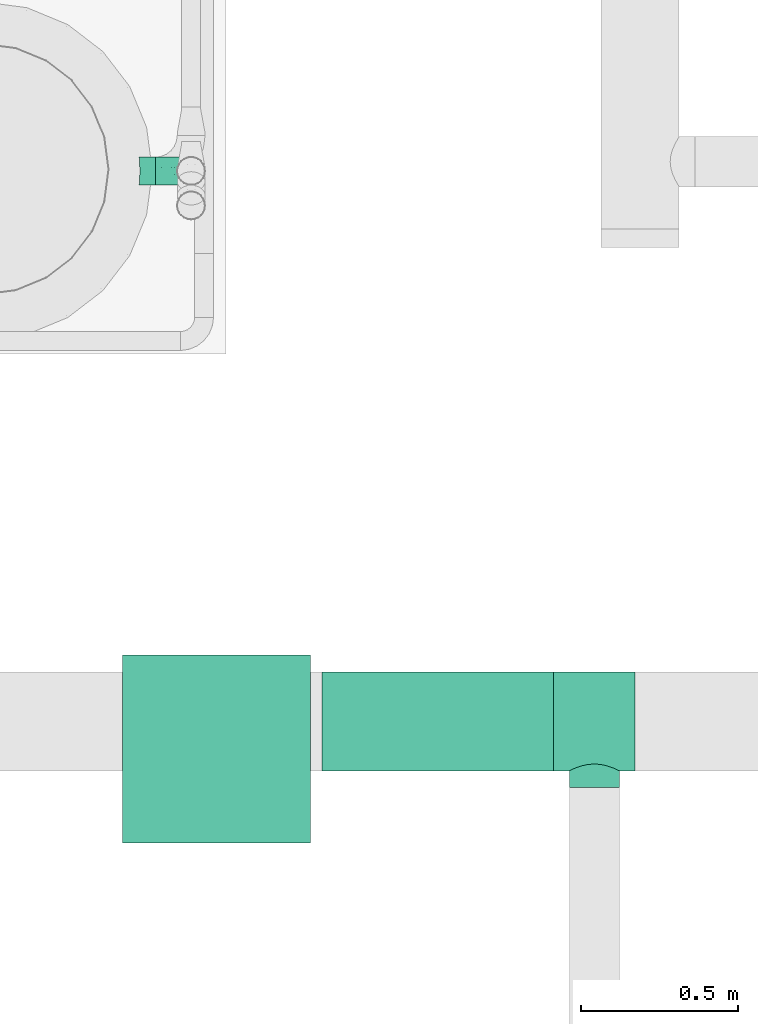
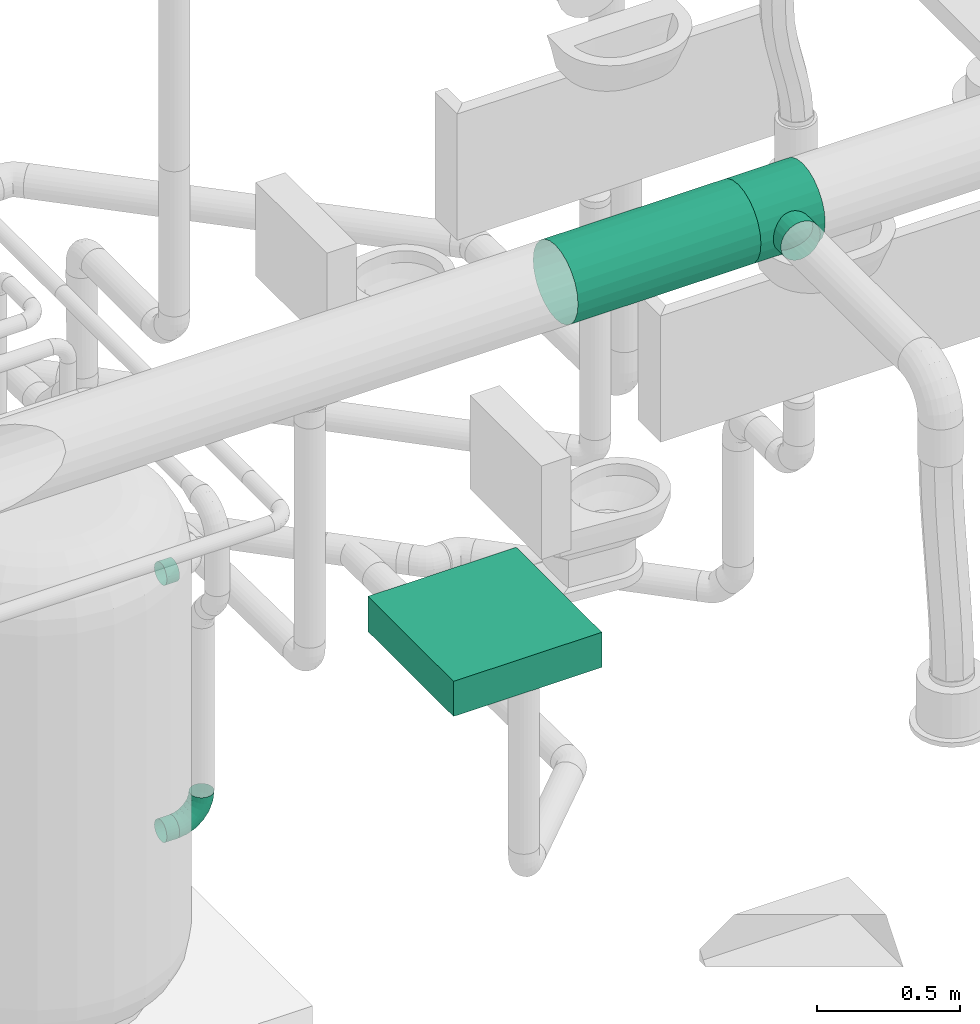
# One storey, part 92 of 374: 4 flow segments, 1 distribution element, 1 flow fitting.
"""IFC2X3 building model written with IfcOpenShell, lengths in metres."""

import ifcopenshell
import ifcopenshell.guid

model = None  # the IFC model being written
_history = None  # IfcOwnerHistory: only IFC2X3 demands one
_inside = {}  # id of a spatial element -> (the spatial element, [elements in it])
_under = {}  # id of a project, library or spatial element -> (it, [spatial elements below it])
_declared = {}  # id of a project -> (the project, [libraries it declares])
_typed = {}  # id of a type object -> (the type object, [elements of that type])
_made_of = {}  # id of a material, layer set ... -> (it, [elements and type objects made of it])


def new_model(schema):
    """Start an empty IFC model of exactly this schema.

    Asked for "IFC4X3", IfcOpenShell would pick the latest addendum, in which some entities
    have other attributes; the version numbers below select the first issue.
    IFC2X3 requires an IfcOwnerHistory on every rooted entity: one is made here for all.
    """
    global model, _history
    if schema == "IFC4X3":
        model = ifcopenshell.file(schema_version=(4, 3, 0, 0))
    else:
        model = ifcopenshell.file(schema=schema)
    _inside.clear()
    _under.clear()
    _declared.clear()
    _typed.clear()
    _made_of.clear()
    _history = None
    if model.schema == "IFC2X3":
        org = make("IfcOrganization", Name="unknown")
        user = make(
            "IfcPersonAndOrganization",
            ThePerson=make("IfcPerson", FamilyName="unknown"),
            TheOrganization=org,
        )
        app = make(
            "IfcApplication",
            ApplicationDeveloper=org,
            Version="unknown",
            ApplicationFullName="unknown",
            ApplicationIdentifier="unknown",
        )
        _history = make(
            "IfcOwnerHistory",
            OwningUser=user,
            OwningApplication=app,
            ChangeAction="ADDED",
            CreationDate=0,
        )
    return model


def make(cls, **values):
    """One entity of the class cls with the attributes given. An attribute that is None is left unset."""
    return model.create_entity(
        cls, **{name: value for name, value in values.items() if value is not None}
    )


def rooted(cls, **values):
    """An entity with a GlobalId (a new one), such as an element, a storey or a relation."""
    return make(cls, GlobalId=ifcopenshell.guid.new(), OwnerHistory=_history, **values)


def si_unit(unit_type, name, prefix=None):
    """IfcSIUnit, for example si_unit("LENGTHUNIT", "METRE", prefix="MILLI")."""
    return make("IfcSIUnit", UnitType=unit_type, Prefix=prefix, Name=name)


def assignment(units):
    """IfcUnitAssignment: the units of a project."""
    return None if units is None else make("IfcUnitAssignment", Units=units)


def point(xyz):
    """IfcCartesianPoint."""
    return None if xyz is None else make("IfcCartesianPoint", Coordinates=xyz)


def direction(xyz):
    """IfcDirection."""
    return None if xyz is None else make("IfcDirection", DirectionRatios=xyz)


def frame(location, z_axis=None, x_axis=None):
    """IfcAxis2Placement3D, a coordinate frame: its origin and axes. An axis left out is left unset."""
    return make(
        "IfcAxis2Placement3D",
        Location=point(location),
        Axis=direction(z_axis),
        RefDirection=direction(x_axis),
    )


def frame_2d(location, x_axis=None):
    """IfcAxis2Placement2D, a coordinate frame in the plane: its origin and x axis."""
    return make(
        "IfcAxis2Placement2D", Location=point(location), RefDirection=direction(x_axis)
    )


def origin():
    """The frame at (0, 0, 0) with its axes left unset."""
    return frame((0.0, 0.0, 0.0))


def place(relative_to, where):
    """IfcLocalPlacement: puts the frame where relative to a parent placement (None: the world)."""
    return make(
        "IfcLocalPlacement", PlacementRelTo=relative_to, RelativePlacement=where
    )


def context(
    kind, dimensions, precision=None, world=None, true_north=None, identifier=None
):
    """IfcGeometricRepresentationContext, for example the 3D "Model" context."""
    return make(
        "IfcGeometricRepresentationContext",
        ContextIdentifier=identifier,
        ContextType=kind,
        CoordinateSpaceDimension=dimensions,
        Precision=precision,
        WorldCoordinateSystem=world,
        TrueNorth=true_north,
    )


def subcontext(parent, identifier, kind, view, scale=None):
    """IfcGeometricRepresentationSubContext, for example "Body" below "Model"."""
    return make(
        "IfcGeometricRepresentationSubContext",
        ContextIdentifier=identifier,
        ContextType=kind,
        ParentContext=parent,
        TargetScale=scale,
        TargetView=view,
    )


def project(units=None, contexts=None):
    """IfcProject with its units and contexts."""
    return rooted(
        "IfcProject",
        Name="project",
        RepresentationContexts=contexts,
        UnitsInContext=assignment(units),
    )


def spatial(cls, under=None, at=None, **own):
    """A site, building, storey or space (cls), placed at a placement, below another one or the project."""
    s = rooted(cls, ObjectPlacement=at, **own)
    if under is not None:
        _under.setdefault(under.id(), (under, []))[1].append(s)
    return s


def profile(cls, at=None, kind="AREA", **sizes):
    """A parametric profile (cls). Its sizes go by their IFC names, for example OverallWidth=200.0."""
    return make(cls, ProfileType=kind, Position=at, **sizes)


def rectangle(**sizes):
    """IfcRectangleProfileDef."""
    return profile("IfcRectangleProfileDef", **sizes)


def extrude(swept, where, along, depth):
    """IfcExtrudedAreaSolid: the profile swept, set in the frame where, extruded along a direction by depth."""
    return make(
        "IfcExtrudedAreaSolid",
        SweptArea=swept,
        Position=where,
        ExtrudedDirection=direction(along),
        Depth=depth,
    )


def faces_of(points, faces, orient=None, outer=None):
    """IfcFace entities. A face is a list of loops; a loop is a list of indices into points, from 0.

    orient and outer hold one flag for each loop. By default every Orientation is true, the
    first loop of a face is its IfcFaceOuterBound and the others are IfcFaceBound.
    """
    made = []
    for i, loops in enumerate(faces):
        bounds = []
        for j, loop in enumerate(loops):
            is_outer = j == 0 if outer is None else outer[i][j]
            bounds.append(
                make(
                    "IfcFaceOuterBound" if is_outer else "IfcFaceBound",
                    Bound=make("IfcPolyLoop", Polygon=[points[k] for k in loop]),
                    Orientation=True if orient is None else orient[i][j],
                )
            )
        made.append(make("IfcFace", Bounds=bounds))
    return made


def open_shell(faces, orient=None, outer=None):
    """The faces of one IfcOpenShell. surface_model builds it on its shared points."""
    return ("IfcOpenShell", faces, orient, outer)


def surface_model(cls, points, shells):
    """IfcFaceBasedSurfaceModel or IfcShellBasedSurfaceModel (cls): surfaces that need not close."""
    shared = [point(p) for p in points]
    made = [make(c, CfsFaces=faces_of(shared, fs, o, b)) for c, fs, o, b in shells]
    if cls == "IfcFaceBasedSurfaceModel":
        return make(cls, FbsmFaces=made)
    return make(cls, SbsmBoundary=made)


def shape(context_of_items, identifier, shape_type, items):
    """IfcShapeRepresentation: the items that make up one representation, for example the "Body"."""
    return make(
        "IfcShapeRepresentation",
        ContextOfItems=context_of_items,
        RepresentationIdentifier=identifier,
        RepresentationType=shape_type,
        Items=items,
    )


def source(mapping_origin, context_of_items, identifier, shape_type, items):
    """IfcRepresentationMap: a shape defined once, which mapped items show again and again."""
    return make(
        "IfcRepresentationMap",
        MappingOrigin=mapping_origin,
        MappedRepresentation=shape(context_of_items, identifier, shape_type, items),
    )


def transform(
    local_origin,
    x_axis=None,
    y_axis=None,
    z_axis=None,
    scale=None,
    scale2=None,
    scale3=None,
    uniform=True,
):
    """IfcCartesianTransformationOperator3D, or its non-uniform kind. x_axis, y_axis, z_axis: its Axis1, 2, 3."""
    if uniform:
        return make(
            "IfcCartesianTransformationOperator3D",
            Axis1=direction(x_axis),
            Axis2=direction(y_axis),
            LocalOrigin=point(local_origin),
            Scale=scale,
            Axis3=direction(z_axis),
        )
    return make(
        "IfcCartesianTransformationOperator3DnonUniform",
        Axis1=direction(x_axis),
        Axis2=direction(y_axis),
        LocalOrigin=point(local_origin),
        Scale=scale,
        Axis3=direction(z_axis),
        Scale2=scale2,
        Scale3=scale3,
    )


def mapped(mapping_source, mapping_target):
    """IfcMappedItem: shows the shape of a source again, moved by a transform."""
    return make(
        "IfcMappedItem", MappingSource=mapping_source, MappingTarget=mapping_target
    )


def made_of(thing, what):
    """Note that an element or type object is made of a material, layer set ...; save() writes the relation."""
    if what is not None:
        _made_of.setdefault(what.id(), (what, []))[1].append(thing)
    return thing


def element(
    cls,
    number,
    at=None,
    inside=None,
    cuts=None,
    type_object=None,
    material=None,
    context=None,
    identifier="Body",
    shape_type=None,
    held_by="IfcProductDefinitionShape",
    body=None,
    shapes=None,
    **own,
):
    """One element of the class cls, such as IfcWall. Its Tag is "e" and its number.

    at: its placement. inside: the storey or other place that contains it. cuts: it is an
    opening in that element (IfcRelVoidsElement). A single representation is given by context,
    identifier, shape_type and body (its items); several are given by shapes. held_by: the class
    of the entity that holds the representations. save() writes the other relations.
    """
    e = rooted(cls, Tag="e%d" % number, ObjectPlacement=at, **own)
    if body is not None:
        shapes = [shape(context, identifier, shape_type, body)]
    if shapes is not None:
        e.Representation = make(held_by, Representations=shapes)
    if inside is not None:
        _inside.setdefault(inside.id(), (inside, []))[1].append(e)
    if cuts is not None:
        rooted(
            "IfcRelVoidsElement", RelatingBuildingElement=cuts, RelatedOpeningElement=e
        )
    if type_object is not None:
        _typed.setdefault(type_object.id(), (type_object, []))[1].append(e)
    return made_of(e, material)


def aggregate(whole, parts):
    """IfcRelAggregates: a whole, such as a stair, and the parts it consists of."""
    return rooted("IfcRelAggregates", RelatingObject=whole, RelatedObjects=parts)


def save(model, path):
    """Write the relations noted so far, then the file.

    IfcRelAggregates (storeys below a building ...), IfcRelContainedInSpatialStructure (elements
    in a storey), IfcRelDefinesByType, IfcRelAssociatesMaterial and IfcRelDeclares: one each for
    every whole, place, type object, material and project.
    """
    for whole, parts in _under.values():
        aggregate(whole, parts)
    for where, things in _inside.values():
        rooted(
            "IfcRelContainedInSpatialStructure",
            RelatedElements=things,
            RelatingStructure=where,
        )
    for kind, things in _typed.values():
        rooted("IfcRelDefinesByType", RelatedObjects=things, RelatingType=kind)
    for what, things in _made_of.values():
        rooted("IfcRelAssociatesMaterial", RelatedObjects=things, RelatingMaterial=what)
    for by, libraries in _declared.values():
        rooted("IfcRelDeclares", RelatingContext=by, RelatedDefinitions=libraries)
    model.write(path)


model = new_model("IFC2X3")

# Units and contexts
model_context = context("Model", 3, precision=1e-05, world=origin(), true_north=direction((-0.4480736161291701, 0.8939966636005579)))
body_context = subcontext(model_context, "Body", "Model", "MODEL_VIEW")
ifc_project = project(units=[si_unit("LENGTHUNIT", "METRE"), si_unit("AREAUNIT", "SQUARE_METRE"), si_unit("VOLUMEUNIT", "CUBIC_METRE"), si_unit("PLANEANGLEUNIT", "RADIAN"), si_unit("THERMODYNAMICTEMPERATUREUNIT", "KELVIN"), si_unit("MASSUNIT", "GRAM", prefix="KILO"), si_unit("TIMEUNIT", "SECOND")], contexts=[model_context])

# Site, building, storey
site_placement = place(None, origin())
site = spatial("IfcSite", under=ifc_project, at=site_placement, Name="Site 1", CompositionType="ELEMENT")
building_placement = place(site_placement, origin())
building = spatial("IfcBuilding", under=site, at=building_placement, Name="Undefined", CompositionType="ELEMENT")
storey_placement = place(building_placement, origin())
storey = spatial("IfcBuildingStorey", under=building, at=storey_placement, Name="Rez de chauss\x8ee", CompositionType="ELEMENT", Elevation=0.0)

# Flow fitting
shared_shape_1 = source(origin(), body_context, "Body", "SurfaceModel", [
    surface_model("IfcFaceBasedSurfaceModel", [(0.0, 0.04111575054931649, 0.0), (0.0, 0.0, 0.0), (0.2599999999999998, -7.105427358e-15, 0.0), (0.259999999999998, 0.041115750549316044, 0.0), (0.0, -0.03971476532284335, -0.010641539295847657), (0.259999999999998, -0.03971476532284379, -0.010641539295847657), (0.0, -0.0753220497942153, -0.0311994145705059), (0.259999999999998, -0.07532204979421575, -0.0311994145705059), (0.0, -0.10439527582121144, -0.060272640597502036), (0.259999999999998, -0.10439527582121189, -0.060272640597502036), (0.0, -0.12495315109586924, -0.09587992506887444), (0.259999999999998, -0.12495315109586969, -0.09587992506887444), (0.0, -0.13559469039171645, -0.13559469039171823), (0.259999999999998, -0.1355946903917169, -0.13559469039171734), (0.0, -0.135594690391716, -0.17671044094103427), (0.259999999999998, -0.13559469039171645, -0.1767104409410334), (0.0, -0.1249531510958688, -0.21642520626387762), (0.259999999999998, -0.12495315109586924, -0.21642520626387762), (0.0, -0.10439527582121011, -0.2520324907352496), (0.259999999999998, -0.10439527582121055, -0.2520324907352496), (0.0, -0.07532204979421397, -0.2811057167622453), (0.259999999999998, -0.07532204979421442, -0.2811057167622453), (0.0, -0.039714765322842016, -0.3016635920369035), (0.259999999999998, -0.03971476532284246, -0.3016635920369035), (0.0, 1.776356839e-15, -0.3123051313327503), (0.259999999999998, 1.33226763e-15, -0.3123051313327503), (0.0, 0.041115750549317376, -0.31230513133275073), (0.259999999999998, 0.04111575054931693, -0.31230513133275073), (0.0, 0.08083051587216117, -0.30166359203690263), (0.259999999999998, 0.08083051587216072, -0.30166359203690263), (0.0, 0.11643780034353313, -0.28110571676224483), (0.259999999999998, 0.11643780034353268, -0.28110571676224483), (0.0, 0.14551102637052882, -0.25203249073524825), (0.259999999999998, 0.14551102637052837, -0.25203249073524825), (0.0, 0.16606890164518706, -0.2164252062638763), (0.259999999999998, 0.16606890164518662, -0.21642520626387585), (0.0, 0.17671044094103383, -0.1767104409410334), (0.259999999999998, 0.1767104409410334, -0.1767104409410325), (0.0, 0.17671044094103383, -0.1355946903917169), (0.259999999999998, 0.1767104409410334, -0.13559469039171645), (0.0, 0.16606890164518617, -0.09587992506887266), (0.259999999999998, 0.16606890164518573, -0.09587992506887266), (0.0, 0.14551102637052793, -0.06027264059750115), (0.259999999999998, 0.14551102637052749, -0.06027264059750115), (0.0, 0.1164378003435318, -0.031199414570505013), (0.259999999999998, 0.11643780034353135, -0.031199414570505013), (0.0, 0.08083051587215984, -0.010641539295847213), (0.259999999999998, 0.08083051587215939, -0.010641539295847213), (0.21000000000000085, 0.1767104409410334, -0.1767104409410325), (0.2072740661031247, 0.1726525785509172, -0.19706040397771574), (0.2072740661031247, 0.22605868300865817, -0.20409145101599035), (0.21000000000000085, 0.22876129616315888, -0.18356306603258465), (0.19928203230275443, 0.16636954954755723, -0.21569419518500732), (0.19928203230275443, 0.22354024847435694, -0.2232208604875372), (0.18656854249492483, 0.15890731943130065, -0.2314232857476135), (0.18656854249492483, 0.22137761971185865, -0.23964765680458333), (0.1699999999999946, 0.15174813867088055, -0.2433039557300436), (0.1699999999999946, 0.21971817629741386, -0.2522523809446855), (0.15070552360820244, 0.14653802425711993, -0.25067902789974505), (0.15070552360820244, 0.21867500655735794, -0.2601760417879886), (0.12999999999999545, 0.14462474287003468, -0.25317659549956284), (0.12999999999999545, 0.218319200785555, -0.26287865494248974), (0.10929447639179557, 0.14653802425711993, -0.25067902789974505), (0.10929447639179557, 0.21867500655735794, -0.2601760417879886), (0.0899999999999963, 0.15174813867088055, -0.2433039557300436), (0.0899999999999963, 0.21971817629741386, -0.2522523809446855), (0.07343145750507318, 0.15890731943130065, -0.2314232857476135), (0.07343145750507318, 0.22137761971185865, -0.23964765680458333), (0.06071796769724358, 0.16636954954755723, -0.21569419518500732), (0.06071796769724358, 0.22354024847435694, -0.2232208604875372), (0.0527259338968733, 0.1726525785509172, -0.19706040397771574), (0.0527259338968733, 0.22605868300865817, -0.20409145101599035), (0.04999999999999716, 0.1767104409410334, -0.1767104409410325), (0.04999999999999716, 0.22876129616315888, -0.18356306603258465), (0.0527259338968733, 0.17805780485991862, -0.15600363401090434), (0.0527259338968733, 0.2314639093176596, -0.16303468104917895), (0.06071796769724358, 0.1768116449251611, -0.13637860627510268), (0.06071796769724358, 0.23398234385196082, -0.14390527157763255), (0.07343145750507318, 0.1736746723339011, -0.11925410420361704), (0.07343145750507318, 0.2361449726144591, -0.12747847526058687), (0.0899999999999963, 0.1698343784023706, -0.10592532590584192), (0.0899999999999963, 0.2378044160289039, -0.11487375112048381), (0.10929447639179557, 0.16671060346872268, -0.09745307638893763), (0.10929447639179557, 0.23884758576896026, -0.10695009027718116), (0.12999999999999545, 0.16550893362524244, -0.09454541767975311), (0.12999999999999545, 0.23920339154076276, -0.10424747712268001), (0.15070552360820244, 0.16671060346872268, -0.09745307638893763), (0.15070552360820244, 0.23884758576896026, -0.10695009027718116), (0.1699999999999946, 0.1698343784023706, -0.10592532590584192), (0.1699999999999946, 0.2378044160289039, -0.11487375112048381), (0.18656854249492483, 0.1736746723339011, -0.11925410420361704), (0.18656854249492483, 0.2361449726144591, -0.12747847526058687), (0.19928203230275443, 0.1768116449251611, -0.13637860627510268), (0.19928203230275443, 0.23398234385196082, -0.14390527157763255), (0.2072740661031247, 0.17805780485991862, -0.15600363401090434), (0.2072740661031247, 0.2314639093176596, -0.16303468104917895)], [open_shell([[[0, 1, 2, 3]], [[1, 4, 5, 2]], [[4, 6, 7, 5]], [[6, 8, 9, 7]], [[8, 10, 11, 9]], [[10, 12, 13, 11]], [[12, 14, 15, 13]], [[14, 16, 17, 15]], [[16, 18, 19, 17]], [[18, 20, 21, 19]], [[20, 22, 23, 21]], [[22, 24, 25, 23]], [[24, 26, 27, 25]], [[26, 28, 29, 27]], [[28, 30, 31, 29]], [[30, 32, 33, 31]], [[32, 34, 35, 33]], [[34, 36, 37, 35]], [[36, 38, 39, 37]], [[38, 40, 41, 39]], [[40, 42, 43, 41]], [[42, 44, 45, 43]], [[44, 46, 47, 45]], [[46, 0, 3, 47]], [[48, 49, 50, 51]], [[49, 52, 53, 50]], [[52, 54, 55, 53]], [[54, 56, 57, 55]], [[56, 58, 59, 57]], [[58, 60, 61, 59]], [[60, 62, 63, 61]], [[62, 64, 65, 63]], [[64, 66, 67, 65]], [[66, 68, 69, 67]], [[68, 70, 71, 69]], [[70, 72, 73, 71]], [[72, 74, 75, 73]], [[74, 76, 77, 75]], [[76, 78, 79, 77]], [[78, 80, 81, 79]], [[80, 82, 83, 81]], [[82, 84, 85, 83]], [[84, 86, 87, 85]], [[86, 88, 89, 87]], [[88, 90, 91, 89]], [[90, 92, 93, 91]], [[92, 94, 95, 93]], [[94, 48, 51, 95]]])]),
])
flow_fitting_placement = place(storey_placement, origin())
element("IfcFlowFitting", 1, at=flow_fitting_placement, inside=storey, Name="Pièce en té 90°", ObjectType="Pièce en té 90°", context=body_context, shape_type="MappedRepresentation", body=[
    mapped(shared_shape_1, transform((56.42000379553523, 8.265763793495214, 3.952133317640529), x_axis=(-1.0, 0.0, 0.0), y_axis=(7.266545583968e-12, -0.9914448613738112, 0.13052619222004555), z_axis=(0.0, 0.13052619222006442, 0.9914448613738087))),
])

# Flow segments
shared_shape_2 = source(origin(), body_context, "Body", "SurfaceModel", [
    surface_model("IfcFaceBasedSurfaceModel", [(0.0, 0.04111575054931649, 0.0), (0.0, 0.0, 0.0), (0.7400000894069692, 4.4408921e-16, 0.0), (0.7400000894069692, 0.04111575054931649, -4.4408921e-16), (0.0, -0.03971476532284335, -0.010641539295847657), (0.7400000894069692, -0.03971476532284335, -0.010641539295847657), (0.0, -0.0753220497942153, -0.0311994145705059), (0.7400000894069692, -0.0753220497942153, -0.0311994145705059), (0.0, -0.10439527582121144, -0.060272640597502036), (0.7400000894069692, -0.10439527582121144, -0.060272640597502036), (0.0, -0.12495315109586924, -0.09587992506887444), (0.7400000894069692, -0.12495315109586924, -0.09587992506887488), (0.0, -0.13559469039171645, -0.13559469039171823), (0.7400000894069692, -0.13559469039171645, -0.13559469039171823), (0.0, -0.135594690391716, -0.17671044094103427), (0.7400000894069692, -0.13559469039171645, -0.17671044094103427), (0.0, -0.1249531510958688, -0.21642520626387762), (0.7400000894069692, -0.1249531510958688, -0.21642520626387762), (0.0, -0.10439527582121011, -0.2520324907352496), (0.7400000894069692, -0.10439527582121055, -0.2520324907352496), (0.0, -0.07532204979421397, -0.2811057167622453), (0.7400000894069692, -0.07532204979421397, -0.2811057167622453), (0.0, -0.039714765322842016, -0.3016635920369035), (0.7400000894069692, -0.039714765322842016, -0.3016635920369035), (0.0, 1.776356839e-15, -0.3123051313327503), (0.7400000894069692, 1.776356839e-15, -0.31230513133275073), (0.0, 0.041115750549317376, -0.31230513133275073), (0.7400000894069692, 0.041115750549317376, -0.31230513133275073), (0.0, 0.08083051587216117, -0.30166359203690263), (0.7400000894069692, 0.08083051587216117, -0.30166359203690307), (0.0, 0.11643780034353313, -0.28110571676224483), (0.7400000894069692, 0.11643780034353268, -0.28110571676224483), (0.0, 0.14551102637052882, -0.25203249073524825), (0.7400000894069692, 0.14551102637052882, -0.25203249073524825), (0.0, 0.16606890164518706, -0.2164252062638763), (0.7400000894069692, 0.16606890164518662, -0.2164252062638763), (0.0, 0.17671044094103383, -0.1767104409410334), (0.7400000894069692, 0.17671044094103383, -0.1767104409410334), (0.0, 0.17671044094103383, -0.1355946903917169), (0.7400000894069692, 0.17671044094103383, -0.1355946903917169), (0.0, 0.16606890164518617, -0.09587992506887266), (0.7400000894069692, 0.16606890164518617, -0.09587992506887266), (0.0, 0.14551102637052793, -0.06027264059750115), (0.7400000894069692, 0.14551102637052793, -0.06027264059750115), (0.0, 0.1164378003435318, -0.031199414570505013), (0.7400000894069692, 0.1164378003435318, -0.031199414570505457), (0.0, 0.08083051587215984, -0.010641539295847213), (0.7400000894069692, 0.08083051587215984, -0.010641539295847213)], [open_shell([[[0, 1, 2, 3]], [[1, 4, 5, 2]], [[4, 6, 7, 5]], [[6, 8, 9, 7]], [[8, 10, 11, 9]], [[10, 12, 13, 11]], [[12, 14, 15, 13]], [[14, 16, 17, 15]], [[16, 18, 19, 17]], [[18, 20, 21, 19]], [[20, 22, 23, 21]], [[22, 24, 25, 23]], [[24, 26, 27, 25]], [[26, 28, 29, 27]], [[28, 30, 31, 29]], [[30, 32, 33, 31]], [[32, 34, 35, 33]], [[34, 36, 37, 35]], [[36, 38, 39, 37]], [[38, 40, 41, 39]], [[40, 42, 43, 41]], [[42, 44, 45, 43]], [[44, 46, 47, 45]], [[46, 0, 3, 47]]])]),
])
flow_segment_1_placement = place(storey_placement, origin())
element("IfcFlowSegment", 2, at=flow_segment_1_placement, inside=storey, Name="Tube", ObjectType="Tube", context=body_context, shape_type="MappedRepresentation", body=[
    mapped(shared_shape_2, transform((55.42000370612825, 8.18423579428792, 3.952133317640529), x_axis=(1.0, 0.0, 0.0), y_axis=(0.0, 0.9914448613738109, 0.1305261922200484), z_axis=(0.0, -0.1305261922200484, 0.9914448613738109))),
])
shared_shape_3 = source(origin(), body_context, "Body", "SurfaceModel", [
    surface_model("IfcFaceBasedSurfaceModel", [(0.0, 0.011603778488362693, 2.22044605e-16), (0.0, 0.0, 0.0), (0.05013237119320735, 0.0, 0.0), (0.05000000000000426, 0.011603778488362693, 2.22044605e-16), (0.0, -0.01120838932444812, -0.003003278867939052), (0.050494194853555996, -0.01120838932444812, -0.003003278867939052), (0.0, -0.021257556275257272, -0.008805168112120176), (0.05098887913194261, -0.021257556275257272, -0.008805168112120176), (0.0, -0.029462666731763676, -0.017010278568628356), (0.0514840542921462, -0.029462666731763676, -0.017010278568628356), (0.0, -0.035264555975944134, -0.02705944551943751), (0.051846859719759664, -0.035264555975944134, -0.02705944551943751), (0.0, -0.03826783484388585, -0.038267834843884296), (0.05197972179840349, -0.03826783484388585, -0.038267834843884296), (0.0, -0.038267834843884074, -0.04987161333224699), (0.051846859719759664, -0.038267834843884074, -0.04987161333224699), (0.0, -0.03526455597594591, -0.06108000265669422), (0.0514840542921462, -0.03526455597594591, -0.06108000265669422), (0.0, -0.029462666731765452, -0.07112916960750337), (0.05098887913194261, -0.029462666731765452, -0.07112916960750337), (0.0, -0.021257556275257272, -0.07933428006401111), (0.050494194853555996, -0.021257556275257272, -0.07933428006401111), (0.0, -0.011208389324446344, -0.08513616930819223), (0.05013237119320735, -0.011208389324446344, -0.08513616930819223), (0.0, 0.0, -0.08813944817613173), (0.05000000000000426, 0.0, -0.08813944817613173), (0.0, 0.011603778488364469, -0.08813944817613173), (0.05013237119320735, 0.011603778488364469, -0.08813944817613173), (0.0, 0.022812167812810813, -0.08513616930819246), (0.050494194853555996, 0.022812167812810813, -0.08513616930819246), (0.0, 0.03286133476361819, -0.07933428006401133), (0.05098887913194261, 0.03286133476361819, -0.07933428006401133), (0.0, 0.04106644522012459, -0.07112916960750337), (0.0514840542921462, 0.04106644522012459, -0.07112916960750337), (0.0, 0.0468683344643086, -0.06108000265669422), (0.051846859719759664, 0.0468683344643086, -0.06108000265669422), (0.0, 0.04987161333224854, -0.04987161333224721), (0.05197972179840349, 0.04987161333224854, -0.04987161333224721), (0.0, 0.04987161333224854, -0.03826783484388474), (0.051846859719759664, 0.04987161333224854, -0.03826783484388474), (0.0, 0.04686833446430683, -0.02705944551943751), (0.0514840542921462, 0.04686833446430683, -0.02705944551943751), (0.0, 0.04106644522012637, -0.017010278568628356), (0.05098887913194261, 0.04106644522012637, -0.017010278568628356), (0.0, 0.032861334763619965, -0.00880516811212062), (0.050494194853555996, 0.032861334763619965, -0.00880516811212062), (0.0, 0.022812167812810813, -0.003003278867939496), (0.05013237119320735, 0.022812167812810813, -0.003003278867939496)], [open_shell([[[0, 1, 2, 3]], [[1, 4, 5, 2]], [[4, 6, 7, 5]], [[6, 8, 9, 7]], [[8, 10, 11, 9]], [[10, 12, 13, 11]], [[12, 14, 15, 13]], [[14, 16, 17, 15]], [[16, 18, 19, 17]], [[18, 20, 21, 19]], [[20, 22, 23, 21]], [[22, 24, 25, 23]], [[24, 26, 27, 25]], [[26, 28, 29, 27]], [[28, 30, 31, 29]], [[30, 32, 33, 31]], [[32, 34, 35, 33]], [[34, 36, 37, 35]], [[36, 38, 39, 37]], [[38, 40, 41, 39]], [[40, 42, 43, 41]], [[42, 44, 45, 43]], [[44, 46, 47, 45]], [[46, 0, 3, 47]]])]),
])
flow_segment_2_placement = place(storey_placement, origin())
element("IfcFlowSegment", 3, at=flow_segment_2_placement, inside=storey, Name="Piquage sur circulaire 90°", ObjectType="Piquage sur circulaire 90°", context=body_context, shape_type="MappedRepresentation", body=[
    mapped(shared_shape_3, transform((54.88883056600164, 9.99382004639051, 0.6347198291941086), x_axis=(-1.0, 0.0, 0.0), y_axis=(7.266545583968e-12, -0.9914448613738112, 0.13052619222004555), z_axis=(0.0, 0.13052619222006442, 0.9914448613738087))),
])
flow_segment_3_placement = place(storey_placement, origin())
element("IfcFlowSegment", 4, at=flow_segment_3_placement, inside=storey, Name="Piquage sur circulaire 90°", ObjectType="Piquage sur circulaire 90°", context=body_context, shape_type="MappedRepresentation", body=[
    mapped(shared_shape_3, transform((54.88883056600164, 9.99382004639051, 1.7347198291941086), x_axis=(-1.0, 0.0, 0.0), y_axis=(7.266545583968e-12, -0.9914448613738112, 0.13052619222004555), z_axis=(0.0, 0.13052619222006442, 0.9914448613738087))),
])
shared_shape_4 = source(origin(), body_context, "Body", "SurfaceModel", [
    surface_model("IfcFaceBasedSurfaceModel", [(0.041363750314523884, -1.776356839e-15, 0.0), (0.04116605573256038, 0.011602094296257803, 0.0), (0.000197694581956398, 0.011602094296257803, 8.8817842e-16), (0.0, 0.0, 0.0), (-0.03937470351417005, 0.01297447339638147, -0.010514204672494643), (-0.039954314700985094, 0.0013856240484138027, -0.010615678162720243), (-0.07485434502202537, 0.015625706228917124, -0.03082608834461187), (-0.07577637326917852, 0.004062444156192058, -0.03112359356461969), (-0.10382335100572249, 0.01937511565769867, -0.059551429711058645), (-0.1050249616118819, 0.007848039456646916, -0.06012616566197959), (-0.12430753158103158, 0.023967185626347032, -0.09473264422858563), (-0.1257068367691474, 0.012484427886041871, -0.09564691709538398), (-0.1349109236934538, 0.029088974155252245, -0.13397219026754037), (-0.136412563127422, 0.017655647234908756, -0.13526516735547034), (0.04058644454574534, 0.02280223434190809, -0.0029780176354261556), (0.0007773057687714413, 0.022802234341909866, -0.002978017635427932), (-0.037675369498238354, 0.024135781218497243, -0.013194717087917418), (-0.07215109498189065, 0.026711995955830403, -0.032931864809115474), (-0.10030040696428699, 0.030355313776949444, -0.06084440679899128), (-0.12020497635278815, 0.03481744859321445, -0.09503014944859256), (-0.1305083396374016, 0.039794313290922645, -0.13315939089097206), (0.03966441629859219, 0.03283714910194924, -0.00873110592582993), (0.0016993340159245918, 0.03283714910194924, -0.00873110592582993), (-0.034972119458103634, 0.034108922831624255, -0.018474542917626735), (-0.06785084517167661, 0.03656580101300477, -0.03729741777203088), (-0.09469621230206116, 0.04004035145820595, -0.06391698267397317), (-0.11367875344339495, 0.044295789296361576, -0.09651915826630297), (-0.12350483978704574, 0.04904211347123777, -0.13288216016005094), (0.03846280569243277, 0.041022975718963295, -0.016867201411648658), (0.0029009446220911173, 0.04102297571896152, -0.016867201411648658), (-0.031449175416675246, 0.04221424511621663, -0.025993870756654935), (-0.06224665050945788, 0.044515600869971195, -0.04362524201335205), (-0.08739268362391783, 0.047770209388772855, -0.06855976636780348), (-0.10517361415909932, 0.051756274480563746, -0.09909819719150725), (-0.11437770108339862, 0.056202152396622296, -0.13315939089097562), (0.03706350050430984, 0.04680186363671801, -0.026831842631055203), (0.004300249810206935, 0.046801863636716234, -0.02683184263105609), (-0.027346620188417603, 0.047899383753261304, -0.03524027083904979), (-0.055720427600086, 0.050019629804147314, -0.051484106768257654), (-0.07888754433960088, 0.053018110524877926, -0.07445635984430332), (-0.09526916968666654, 0.056690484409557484, -0.10259150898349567), (-0.1037489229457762, 0.06078648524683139, -0.13397219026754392), (0.03556186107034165, 0.04977999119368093, -0.0379459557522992), (0.005801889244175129, 0.04977999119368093, -0.03794595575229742), (-0.022944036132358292, 0.05077690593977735, -0.045583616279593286), (-0.04871692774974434, 0.052702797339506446, -0.06033844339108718), (-0.06976040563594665, 0.05542641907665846, -0.08120492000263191), (-0.08464039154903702, 0.05876216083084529, -0.10676103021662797), (-0.09234283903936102, 0.06248269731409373, -0.13526516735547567), (0.03406022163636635, 0.04975440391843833, -0.049452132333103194), (0.007303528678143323, 0.04975440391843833, -0.04945213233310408), (-0.018541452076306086, 0.0506507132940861, -0.05631902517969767), (-0.04171342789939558, 0.05238225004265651, -0.06958484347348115), (-0.060633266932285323, 0.05483101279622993, -0.0883455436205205), (-0.0740116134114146, 0.057830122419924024, -0.11132261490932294), (-0.08093675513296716, 0.06117519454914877, -0.13695020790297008), (0.03266091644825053, 0.04672684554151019, -0.06056624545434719), (0.008702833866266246, 0.04672684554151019, -0.0605662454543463), (-0.014438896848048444, 0.04752940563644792, -0.06671489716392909), (-0.0351872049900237, 0.04907983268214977, -0.07859318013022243), (-0.05212812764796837, 0.051272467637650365, -0.09539160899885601), (-0.06410716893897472, 0.053957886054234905, -0.1159653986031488), (-0.07030797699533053, 0.05695308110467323, -0.13891247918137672), (0.03145930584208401, 0.04090363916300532, -0.07053088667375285), (0.009904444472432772, 0.0409036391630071, -0.07053088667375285), (-0.010915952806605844, 0.041625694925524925, -0.07606277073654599), (-0.02958301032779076, 0.0430205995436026, -0.08674955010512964), (-0.04482459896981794, 0.044993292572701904, -0.10186293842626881), (-0.055602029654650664, 0.04740933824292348, -0.12037298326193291), (-0.0611808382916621, 0.05010408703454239, -0.14101825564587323), (0.030537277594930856, 0.032681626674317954, -0.0786669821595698), (0.010826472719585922, 0.03268162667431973, -0.07866698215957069), (-0.00821270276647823, 0.033341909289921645, -0.08372560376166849), (-0.02528276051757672, 0.03461747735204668, -0.09349811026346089), (-0.039220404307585, 0.03642140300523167, -0.10731852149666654), (-0.04907580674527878, 0.03863075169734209, -0.12424499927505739), (-0.054177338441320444, 0.041094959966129, -0.14312403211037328), (0.029957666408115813, 0.022621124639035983, -0.0844200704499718), (0.011406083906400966, 0.022621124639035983, -0.08442007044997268), (-0.006513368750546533, 0.023242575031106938, -0.08918118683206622), (-0.022579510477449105, 0.024443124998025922, -0.09837895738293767), (-0.03569746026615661, 0.026140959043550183, -0.11138656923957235), (-0.044973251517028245, 0.028220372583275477, -0.12731757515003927), (-0.049774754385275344, 0.030539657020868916, -0.14508630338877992), (0.029759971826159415, 0.011407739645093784, -0.08739808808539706), (0.011603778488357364, 0.011407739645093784, -0.08739808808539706), (-0.0059337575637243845, 0.012015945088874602, -0.09205773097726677), (-0.021657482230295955, 0.013190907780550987, -0.1010594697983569), (-0.03449584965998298, 0.01485255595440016, -0.11378985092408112), (-0.043573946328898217, 0.016887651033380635, -0.12938131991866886), (-0.048273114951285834, 0.019157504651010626, -0.14677134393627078), (0.029957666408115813, -0.00019435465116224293, -0.08739808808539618), (0.011406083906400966, -0.0001943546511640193, -0.08739808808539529), (-0.006513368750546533, 0.00042709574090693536, -0.09215920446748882), (-0.022579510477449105, 0.0016276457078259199, -0.10135697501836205), (-0.03569746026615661, 0.00332547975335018, -0.11436458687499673), (-0.044973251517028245, 0.0054048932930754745, -0.13029559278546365), (-0.049774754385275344, 0.007724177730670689, -0.1480643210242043), (0.030537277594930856, -0.011394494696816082, -0.08442007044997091), (0.010826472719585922, -0.011394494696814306, -0.08442007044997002), (-0.00821270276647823, -0.010734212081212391, -0.0894786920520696), (-0.02528276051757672, -0.009458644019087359, -0.09925119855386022), (-0.039220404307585, -0.007654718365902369, -0.11307160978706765), (-0.04907580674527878, -0.005445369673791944, -0.12999808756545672), (-0.054177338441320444, -0.0029811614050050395, -0.1488771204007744), (0.03145930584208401, -0.021429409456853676, -0.07866698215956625), (0.009904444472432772, -0.021429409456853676, -0.07866698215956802), (-0.010915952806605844, -0.02070735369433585, -0.08419886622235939), (-0.02958301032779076, -0.019312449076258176, -0.09488564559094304), (-0.04482459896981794, -0.017339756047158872, -0.10999903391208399), (-0.055602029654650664, -0.014923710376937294, -0.1285090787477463), (-0.0611808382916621, -0.012228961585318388, -0.1491543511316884), (0.03266091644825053, -0.029615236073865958, -0.0705308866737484), (0.008702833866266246, -0.029615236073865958, -0.07053088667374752), (-0.014438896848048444, -0.02881267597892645, -0.0766795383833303), (-0.0351872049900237, -0.027262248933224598, -0.08855782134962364), (-0.05212812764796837, -0.025069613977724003, -0.105356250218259), (-0.06410716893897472, -0.022384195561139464, -0.1259300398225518), (-0.07030797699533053, -0.019389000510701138, -0.14887712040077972), (0.03406022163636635, -0.03539412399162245, -0.06056624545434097), (0.007303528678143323, -0.03539412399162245, -0.06056624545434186), (-0.018541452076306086, -0.034497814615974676, -0.06743313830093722), (-0.04171342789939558, -0.03276627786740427, -0.08069895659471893), (-0.060633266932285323, -0.03031751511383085, -0.09945965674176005), (-0.0740116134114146, -0.027318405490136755, -0.12243672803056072), (-0.08093675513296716, -0.023973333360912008, -0.14806432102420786), (0.03556186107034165, -0.038372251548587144, -0.04945213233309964), (0.005801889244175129, -0.038372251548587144, -0.049452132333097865), (-0.022944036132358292, -0.03737533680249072, -0.05708979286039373), (-0.04871692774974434, -0.035449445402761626, -0.0718446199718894), (-0.06976040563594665, -0.03272582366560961, -0.09271109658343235), (-0.08464039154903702, -0.029390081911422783, -0.11826720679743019), (-0.09234283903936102, -0.025669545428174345, -0.1467713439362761), (0.03706350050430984, -0.03834666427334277, -0.03794595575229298), (0.004300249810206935, -0.038346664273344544, -0.03794595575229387), (-0.027346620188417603, -0.037249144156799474, -0.04635438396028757), (-0.055720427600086, -0.035128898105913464, -0.06259821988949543), (-0.07888754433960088, -0.03213041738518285, -0.0855704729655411), (-0.09526916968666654, -0.028458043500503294, -0.11370562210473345), (-0.1037489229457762, -0.02436204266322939, -0.1450863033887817), (0.03846280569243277, -0.03531910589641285, -0.026831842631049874), (0.0029009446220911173, -0.03531910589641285, -0.02683184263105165), (-0.031449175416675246, -0.03412783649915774, -0.03595851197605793), (-0.06224665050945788, -0.031826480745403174, -0.05358988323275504), (-0.08739268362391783, -0.028571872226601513, -0.07852440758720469), (-0.10517361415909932, -0.024585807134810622, -0.10906283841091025), (-0.11437770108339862, -0.020139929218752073, -0.1431240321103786), (0.03966441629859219, -0.029495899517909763, -0.01686720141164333), (0.0016993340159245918, -0.02949589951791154, -0.016867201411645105), (-0.034972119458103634, -0.02822412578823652, -0.02661063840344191), (-0.06785084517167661, -0.025767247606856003, -0.04543351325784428), (-0.09469621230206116, -0.02229269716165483, -0.07205307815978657), (-0.11367875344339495, -0.0180372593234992, -0.10465525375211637), (-0.12350483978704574, -0.013290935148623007, -0.14101825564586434), (0.04058644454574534, -0.021273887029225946, -0.008731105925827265), (0.0007773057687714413, -0.02127388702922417, -0.008731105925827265), (-0.037675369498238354, -0.019940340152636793, -0.018947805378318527), (-0.07215109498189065, -0.017364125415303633, -0.038684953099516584), (-0.10030040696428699, -0.013720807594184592, -0.06659749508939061), (-0.12020497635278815, -0.009258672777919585, -0.1007832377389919), (-0.1305083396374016, -0.004281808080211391, -0.1389124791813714), (0.04116605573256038, -0.011213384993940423, -0.0029780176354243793), (0.000197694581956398, -0.0112133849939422, -0.002978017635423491), (-0.03937470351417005, -0.009841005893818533, -0.013492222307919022), (-0.07485434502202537, -0.007189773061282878, -0.03380410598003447), (-0.10382335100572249, -0.003440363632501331, -0.06252944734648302), (-0.12430753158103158, 0.0011517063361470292, -0.09771066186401), (-0.1349109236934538, 0.006273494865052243, -0.13695020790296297)], [open_shell([[[0, 1, 2, 3]], [[3, 2, 4, 5]], [[5, 4, 6, 7]], [[7, 6, 8, 9]], [[9, 8, 10, 11]], [[11, 10, 12, 13]], [[1, 14, 15, 2]], [[2, 15, 16, 4]], [[4, 16, 17, 6]], [[6, 17, 18, 8]], [[8, 18, 19, 10]], [[10, 19, 20, 12]], [[14, 21, 22, 15]], [[15, 22, 23, 16]], [[16, 23, 24, 17]], [[17, 24, 25, 18]], [[18, 25, 26, 19]], [[19, 26, 27, 20]], [[21, 28, 29, 22]], [[22, 29, 30, 23]], [[23, 30, 31, 24]], [[24, 31, 32, 25]], [[25, 32, 33, 26]], [[26, 33, 34, 27]], [[28, 35, 36, 29]], [[29, 36, 37, 30]], [[30, 37, 38, 31]], [[31, 38, 39, 32]], [[32, 39, 40, 33]], [[33, 40, 41, 34]], [[35, 42, 43, 36]], [[36, 43, 44, 37]], [[37, 44, 45, 38]], [[38, 45, 46, 39]], [[39, 46, 47, 40]], [[40, 47, 48, 41]], [[42, 49, 50, 43]], [[43, 50, 51, 44]], [[44, 51, 52, 45]], [[45, 52, 53, 46]], [[46, 53, 54, 47]], [[47, 54, 55, 48]], [[49, 56, 57, 50]], [[50, 57, 58, 51]], [[51, 58, 59, 52]], [[52, 59, 60, 53]], [[53, 60, 61, 54]], [[54, 61, 62, 55]], [[56, 63, 64, 57]], [[57, 64, 65, 58]], [[58, 65, 66, 59]], [[59, 66, 67, 60]], [[60, 67, 68, 61]], [[61, 68, 69, 62]], [[63, 70, 71, 64]], [[64, 71, 72, 65]], [[65, 72, 73, 66]], [[66, 73, 74, 67]], [[67, 74, 75, 68]], [[68, 75, 76, 69]], [[70, 77, 78, 71]], [[71, 78, 79, 72]], [[72, 79, 80, 73]], [[73, 80, 81, 74]], [[74, 81, 82, 75]], [[75, 82, 83, 76]], [[77, 84, 85, 78]], [[78, 85, 86, 79]], [[79, 86, 87, 80]], [[80, 87, 88, 81]], [[81, 88, 89, 82]], [[82, 89, 90, 83]], [[84, 91, 92, 85]], [[85, 92, 93, 86]], [[86, 93, 94, 87]], [[87, 94, 95, 88]], [[88, 95, 96, 89]], [[89, 96, 97, 90]], [[91, 98, 99, 92]], [[92, 99, 100, 93]], [[93, 100, 101, 94]], [[94, 101, 102, 95]], [[95, 102, 103, 96]], [[96, 103, 104, 97]], [[98, 105, 106, 99]], [[99, 106, 107, 100]], [[100, 107, 108, 101]], [[101, 108, 109, 102]], [[102, 109, 110, 103]], [[103, 110, 111, 104]], [[105, 112, 113, 106]], [[106, 113, 114, 107]], [[107, 114, 115, 108]], [[108, 115, 116, 109]], [[109, 116, 117, 110]], [[110, 117, 118, 111]], [[112, 119, 120, 113]], [[113, 120, 121, 114]], [[114, 121, 122, 115]], [[115, 122, 123, 116]], [[116, 123, 124, 117]], [[117, 124, 125, 118]], [[119, 126, 127, 120]], [[120, 127, 128, 121]], [[121, 128, 129, 122]], [[122, 129, 130, 123]], [[123, 130, 131, 124]], [[124, 131, 132, 125]], [[126, 133, 134, 127]], [[127, 134, 135, 128]], [[128, 135, 136, 129]], [[129, 136, 137, 130]], [[130, 137, 138, 131]], [[131, 138, 139, 132]], [[133, 140, 141, 134]], [[134, 141, 142, 135]], [[135, 142, 143, 136]], [[136, 143, 144, 137]], [[137, 144, 145, 138]], [[138, 145, 146, 139]], [[140, 147, 148, 141]], [[141, 148, 149, 142]], [[142, 149, 150, 143]], [[143, 150, 151, 144]], [[144, 151, 152, 145]], [[145, 152, 153, 146]], [[147, 154, 155, 148]], [[148, 155, 156, 149]], [[149, 156, 157, 150]], [[150, 157, 158, 151]], [[151, 158, 159, 152]], [[152, 159, 160, 153]], [[154, 161, 162, 155]], [[155, 162, 163, 156]], [[156, 163, 164, 157]], [[157, 164, 165, 158]], [[158, 165, 166, 159]], [[159, 166, 167, 160]], [[161, 0, 3, 162]], [[162, 3, 5, 163]], [[163, 5, 7, 164]], [[164, 7, 9, 165]], [[165, 9, 11, 166]], [[166, 11, 13, 167]]])]),
])
flow_segment_4_placement = place(storey_placement, origin())
element("IfcFlowSegment", 5, at=flow_segment_4_placement, inside=storey, Name="Tube coudé", ObjectType="Tube coudé", context=body_context, shape_type="MappedRepresentation", body=[
    mapped(shared_shape_4, transform((54.929840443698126, 9.982315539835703, 0.5527334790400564), x_axis=(-0.9914448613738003, 0.0, -0.13052619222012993), y_axis=(-0.016893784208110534, 0.9915887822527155, 0.12832103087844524), z_axis=(0.12942830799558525, 0.12942830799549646, -0.9831056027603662))),
])

# Distribution element
distribution_element_placement = place(storey_placement, origin())
element("IfcDistributionElement", 6, at=distribution_element_placement, inside=storey, Name="Decken-Rechteckleuchte mit Rahmen AP", ObjectType="Decken-Rechteckleuchte mit Rahmen AP", context=body_context, shape_type="SweptSolid", body=[
    extrude(rectangle(XDim=0.6000000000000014, YDim=0.6000000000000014, at=frame_2d((3.552713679e-15, 0.0), x_axis=(0.0, 1.0))), frame((55.08360573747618, 8.1375, 2.5500000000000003), z_axis=(0.0, 0.0, -1.0), x_axis=(1.0, 0.0, 0.0)), (0.0, 0.0, 1.0), 0.15),
])

save(model, "model.ifc")
